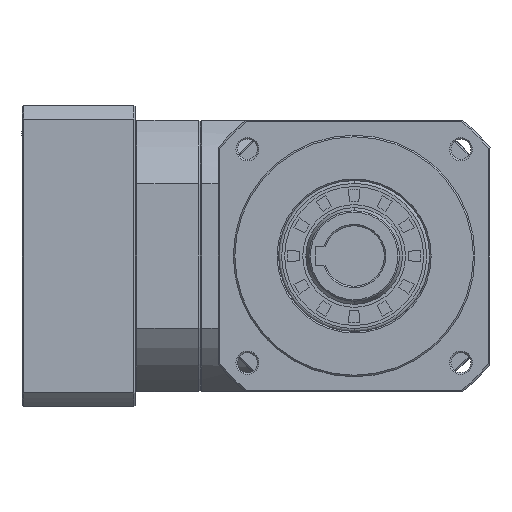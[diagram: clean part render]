
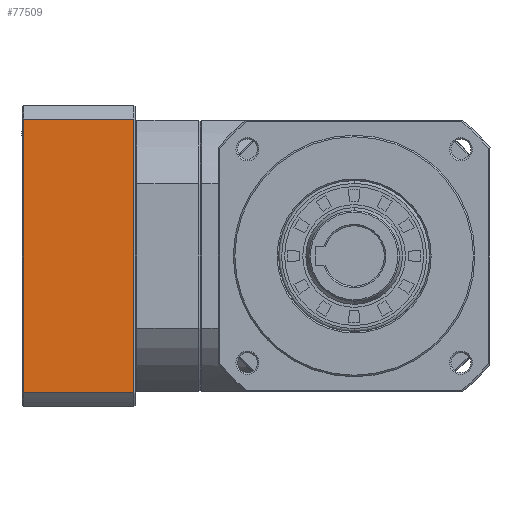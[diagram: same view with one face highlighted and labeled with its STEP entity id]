
A CAD part, left-side view. The second image highlights one B-rep face of the part: STEP entity #77509.
In plain terms, the highlighted planar face has unit normal (-1, 0, 0).
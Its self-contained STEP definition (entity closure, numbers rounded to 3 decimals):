
#4089 = VERTEX_POINT ( 'NONE', #73352 ) ;
#7308 = DIRECTION ( 'NONE',  ( 0., 1., 0. ) ) ;
#7693 = LINE ( 'NONE', #70997, #40994 ) ;
#11371 = CARTESIAN_POINT ( 'NONE',  ( 109., 91.25, 45.346 ) ) ;
#11626 = EDGE_CURVE ( 'NONE', #29462, #4089, #12850, .T. ) ;
#12850 = LINE ( 'NONE', #11371, #59745 ) ;
#14852 = CARTESIAN_POINT ( 'NONE',  ( 109., 109.5, -45.346 ) ) ;
#18445 = CARTESIAN_POINT ( 'NONE',  ( 109., 109.5, 0. ) ) ;
#25447 = ORIENTED_EDGE ( 'NONE', *, *, #36353, .F. ) ;
#29072 = CARTESIAN_POINT ( 'NONE',  ( 109., 109.5, 45.346 ) ) ;
#29462 = VERTEX_POINT ( 'NONE', #29072 ) ;
#31135 = DIRECTION ( 'NONE',  ( 0., 0., -1. ) ) ;
#32587 = DIRECTION ( 'NONE',  ( -1., 0., 0. ) ) ;
#36353 = EDGE_CURVE ( 'NONE', #4089, #77964, #7693, .T. ) ;
#36844 = EDGE_CURVE ( 'NONE', #29462, #62595, #61731, .T. ) ;
#38047 = VECTOR ( 'NONE', #7308, 1000. ) ;
#38389 = PLANE ( 'NONE',  #52529 ) ;
#39248 = DIRECTION ( 'NONE',  ( 0., 0., 1. ) ) ;
#40994 = VECTOR ( 'NONE', #31135, 1000. ) ;
#41311 = CARTESIAN_POINT ( 'NONE',  ( 109., 91.25, -45.346 ) ) ;
#45033 = VECTOR ( 'NONE', #78460, 1000. ) ;
#45379 = CARTESIAN_POINT ( 'NONE',  ( 109., 73., -45.346 ) ) ;
#45945 = ORIENTED_EDGE ( 'NONE', *, *, #36844, .T. ) ;
#46470 = EDGE_LOOP ( 'NONE', ( #58087, #25447, #70277, #45945 ) ) ;
#51566 = DIRECTION ( 'NONE',  ( 0., -1., 0. ) ) ;
#52529 = AXIS2_PLACEMENT_3D ( 'NONE', #45379, #32587, #39248 ) ;
#58087 = ORIENTED_EDGE ( 'NONE', *, *, #75217, .F. ) ;
#59745 = VECTOR ( 'NONE', #51566, 1000. ) ;
#61731 = LINE ( 'NONE', #18445, #45033 ) ;
#62595 = VERTEX_POINT ( 'NONE', #14852 ) ;
#70277 = ORIENTED_EDGE ( 'NONE', *, *, #11626, .F. ) ;
#70997 = CARTESIAN_POINT ( 'NONE',  ( 109., 73., 0. ) ) ;
#73352 = CARTESIAN_POINT ( 'NONE',  ( 109., 73., 45.346 ) ) ;
#73520 = LINE ( 'NONE', #41311, #38047 ) ;
#75217 = EDGE_CURVE ( 'NONE', #77964, #62595, #73520, .T. ) ;
#77509 = ADVANCED_FACE ( 'NONE', ( #80628 ), #38389, .T. ) ;
#77964 = VERTEX_POINT ( 'NONE', #78438 ) ;
#78438 = CARTESIAN_POINT ( 'NONE',  ( 109., 73., -45.346 ) ) ;
#78460 = DIRECTION ( 'NONE',  ( 0., 0., -1. ) ) ;
#80628 = FACE_OUTER_BOUND ( 'NONE', #46470, .T. ) ;
